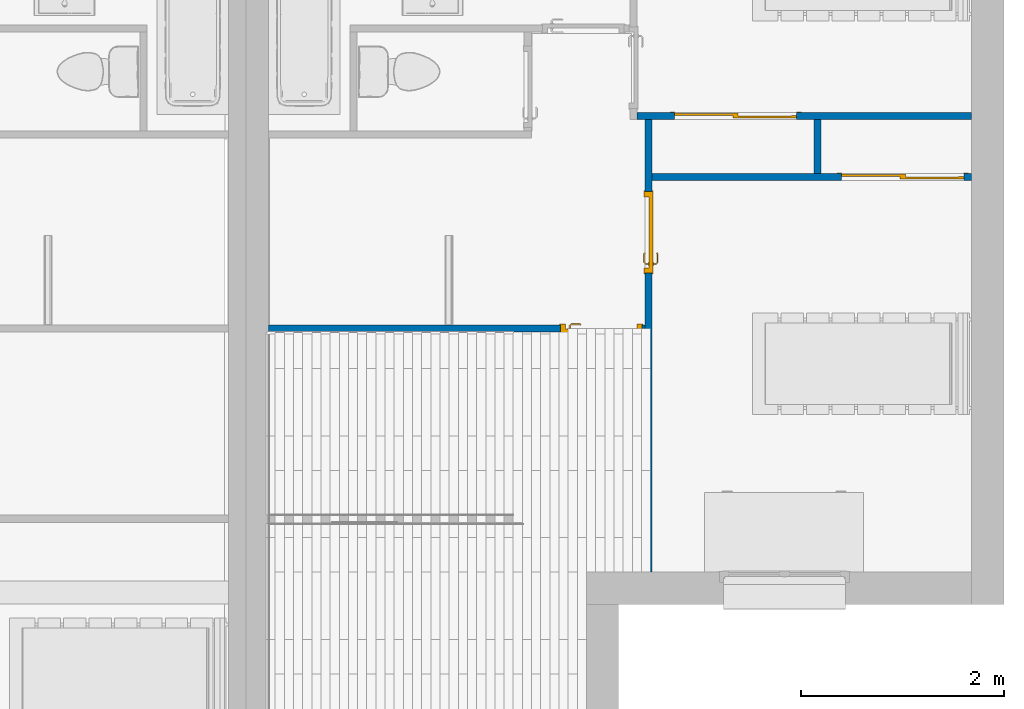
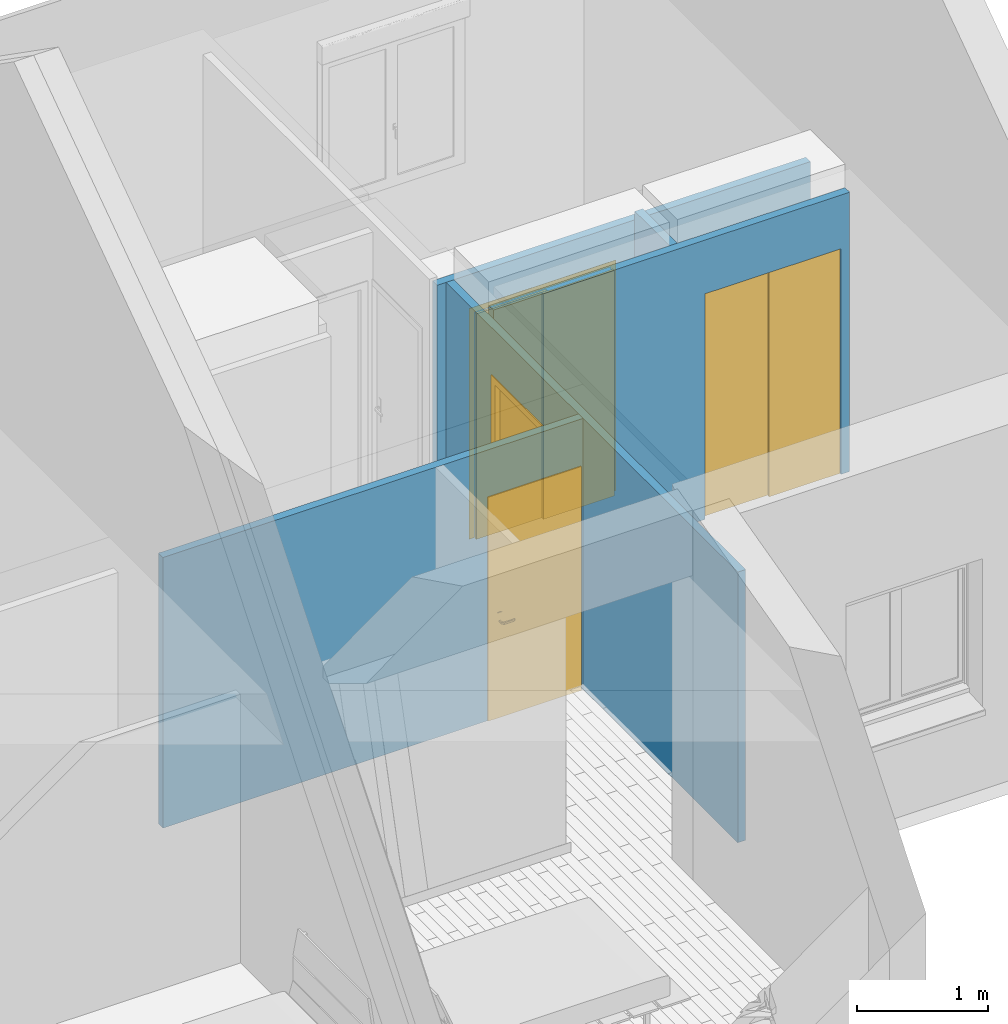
# One storey, part 36 of 50: 5 walls, 4 doors, 4 openings.
"""IFC2X3 building model written with IfcOpenShell, lengths in metres."""

from ifc_helpers import new_model, entity, si_unit, converted_unit, derived_unit, direction, frame, frame_2d, origin, origin_2d_with_axis, place, context, subcontext, project, spatial, polyline, circle_curve, parameter, trimmed, segment, composite_curve, rectangle, outline, extrude, faceted_brep, source, transform, mapped, material, material_list, layer, layer_set, layer_usage, type_object, type_shapes, element, fill, save


model = new_model("IFC2X3")

# Units and contexts
model_context = context("Model", 3, precision=1e-05, world=origin(), true_north=direction((6.12303176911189e-17, 1.0)))
context_of_model = context(None, 3, precision=1e-05, world=origin(), true_north=direction((6.12303176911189e-17, 1.0)))
body_context = subcontext(model_context, "Body", "Model", "MODEL_VIEW")
ifc_project = project(units=[si_unit("LENGTHUNIT", "METRE"), si_unit("AREAUNIT", "SQUARE_METRE"), si_unit("VOLUMEUNIT", "CUBIC_METRE"), converted_unit("PLANEANGLEUNIT", "DEGREE", entity("IfcRatioMeasure", 0.0174532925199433), si_unit("PLANEANGLEUNIT", "RADIAN"), dimensions=[0, 0, 0, 0, 0, 0, 0]), si_unit("MASSUNIT", "GRAM", prefix="KILO"), si_unit("TIMEUNIT", "SECOND"), si_unit("FREQUENCYUNIT", "HERTZ"), si_unit("THERMODYNAMICTEMPERATUREUNIT", "DEGREE_CELSIUS"), derived_unit("THERMALTRANSMITTANCEUNIT", [(si_unit("MASSUNIT", "GRAM", prefix="KILO"), 1), (si_unit("THERMODYNAMICTEMPERATUREUNIT", "KELVIN"), -1), (si_unit("TIMEUNIT", "SECOND"), -3)]), derived_unit("VOLUMETRICFLOWRATEUNIT", [(si_unit("LENGTHUNIT", "METRE"), 3), (si_unit("TIMEUNIT", "SECOND"), -1)]), si_unit("ELECTRICCURRENTUNIT", "AMPERE"), si_unit("ELECTRICVOLTAGEUNIT", "VOLT"), si_unit("POWERUNIT", "WATT"), si_unit("FORCEUNIT", "NEWTON", prefix="KILO"), si_unit("ILLUMINANCEUNIT", "LUX"), si_unit("LUMINOUSFLUXUNIT", "LUMEN"), si_unit("LUMINOUSINTENSITYUNIT", "CANDELA"), si_unit("PRESSUREUNIT", "PASCAL")], contexts=[model_context, context_of_model])

# Site, building, storey
site_placement = place(None, origin())
site = spatial("IfcSite", under=ifc_project, at=site_placement, Name="Surface", CompositionType="ELEMENT")
building_placement = place(site_placement, origin())
building = spatial("IfcBuilding", under=site, at=building_placement, CompositionType="ELEMENT")
storey_placement = place(building_placement, frame((0.0, 0.0, 2.82)))
storey = spatial("IfcBuildingStorey", under=building, at=storey_placement, Name="ETAGE", CompositionType="ELEMENT", Elevation=2.82)

# Wall, opening, door
ifc_material_1 = material(Name="Peinture - Blanc")
ifc_layer = layer(ifc_material_1, 0.07)
ifc_layer_set = layer_set([ifc_layer], Name="Mur de base:Int.  Platre 70 mm en blanc")
ifc_layer_usage_1 = layer_usage(ifc_layer_set, "AXIS2", "NEGATIVE", 0.035)
wall_type = type_object("IfcWallType", Name="Mur de base:Int.  Platre 70 mm en blanc", PredefinedType="STANDARD", material=ifc_layer_set)
wall_1_placement = place(storey_placement, frame((87.6617857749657, 84.2475239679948, 0.0), z_axis=(0.0, 0.0, 1.0), x_axis=(0.0, 1.0, 0.0)))
wall_1 = element("IfcWallStandardCase", 1, at=wall_1_placement, inside=storey, type_object=wall_type, material=ifc_layer_usage_1, Name="Mur de base:Int.  Platre 70 mm en blanc", ObjectType="Mur de base:Int.  Platre 70 mm en blanc", context=body_context, shape_type="SweptSolid", body=[
    extrude(rectangle(XDim=4.44999999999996, YDim=0.0699999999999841, at=frame_2d((2.22499999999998, 0.0), x_axis=(-1.0, 0.0))), origin(), (0.0, 0.0, 1.0), 2.52),
])
opening_1_placement = place(wall_1_placement, frame((3.74, 0.035, 0.0)))
opening_1 = element("IfcOpeningElement", 2, at=opening_1_placement, cuts=wall_1, Name="FR_Simple (R):73 x 204 - (70):1", ObjectType="Opening", context=body_context, shape_type="SweptSolid", body=[
    extrude(rectangle(XDim=2.075, YDim=0.799999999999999, at=frame_2d((1.0375, 0.400000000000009), x_axis=(1.0, 0.0))), frame((0.0, 0.0, 0.0), z_axis=(0.0, -1.0, 0.0), x_axis=(0.0, 0.0, 1.0)), (0.0, 0.0, 1.0), 0.07),
])
ifc_material_2 = material(Name="Poignée Porte")
ifc_material_3 = material(Name="Dormants Portes")
ifc_material_4 = material(Name="Panneaux Portes")
ifc_material_list_1 = material_list([ifc_material_2, ifc_material_3, ifc_material_4])
ifc_material_list_2 = material_list([ifc_material_2, ifc_material_3, ifc_material_4])
door_style_1 = type_object("IfcDoorStyle", Name="73 x 204 - (70)", ConstructionType="NOTDEFINED", OperationType="SINGLE_SWING_LEFT", ParameterTakesPrecedence=False, Sizeable=False, material=ifc_material_list_2)
shared_shape_1 = source(origin(), body_context, "Body", "Brep", [
    faceted_brep([(0.100352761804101, -0.0130000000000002, 0.766003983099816), (0.11, -0.0130000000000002, 0.770000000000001), (0.11, -0.0130000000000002, 0.980000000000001), (0.100352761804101, -0.0130000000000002, 0.983996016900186), (0.0900000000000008, -0.0130000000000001, 0.985358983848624), (0.0796472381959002, -0.0130000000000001, 0.983996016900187), (0.0700000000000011, -0.0130000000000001, 0.980000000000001), (0.0700000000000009, -0.0130000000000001, 0.770000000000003), (0.0796472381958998, -0.0130000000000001, 0.766003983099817), (0.0900000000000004, -0.0130000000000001, 0.764641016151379), (0.100352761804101, -0.00800000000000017, 0.983996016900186), (0.11, -0.00800000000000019, 0.980000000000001), (0.11, -0.00800000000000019, 0.770000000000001), (0.100352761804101, -0.00800000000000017, 0.766003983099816), (0.0900000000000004, -0.00800000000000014, 0.764641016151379), (0.0796472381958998, -0.0080000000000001, 0.766003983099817), (0.0700000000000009, -0.00800000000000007, 0.770000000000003), (0.0700000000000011, -0.00800000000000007, 0.980000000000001), (0.0796472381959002, -0.0080000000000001, 0.983996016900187), (0.0900000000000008, -0.00800000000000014, 0.985358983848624)], [[[0, 1, 2, 3, 4, 5, 6, 7, 8, 9]], [[10, 11, 12, 13, 14, 15, 16, 17, 18, 19]], [[16, 15, 8, 7]], [[8, 15, 14, 9]], [[14, 13, 0, 9]], [[13, 12, 1, 0]], [[2, 1, 12, 11]], [[11, 10, 3, 2]], [[3, 10, 19, 4]], [[19, 18, 5, 4]], [[18, 17, 6, 5]], [[7, 6, 17, 16]]]),
    faceted_brep([(0.100352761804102, 0.0319999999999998, 0.766003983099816), (0.110000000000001, 0.0319999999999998, 0.770000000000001), (0.11, 0.0319999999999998, 0.980000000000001), (0.100352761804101, 0.0319999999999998, 0.983996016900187), (0.0900000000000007, 0.0319999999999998, 0.985358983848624), (0.0796472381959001, 0.0319999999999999, 0.983996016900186), (0.0700000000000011, 0.0319999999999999, 0.980000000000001), (0.0700000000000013, 0.0319999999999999, 0.770000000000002), (0.0796472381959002, 0.0319999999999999, 0.766003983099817), (0.0900000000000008, 0.0319999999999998, 0.764641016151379), (0.100352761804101, 0.0369999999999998, 0.983996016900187), (0.11, 0.0369999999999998, 0.980000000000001), (0.110000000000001, 0.0369999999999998, 0.770000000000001), (0.100352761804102, 0.0369999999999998, 0.766003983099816), (0.0900000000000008, 0.0369999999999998, 0.764641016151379), (0.0796472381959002, 0.0369999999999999, 0.766003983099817), (0.0700000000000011, 0.0369999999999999, 0.770000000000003), (0.0700000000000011, 0.0369999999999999, 0.980000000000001), (0.0796472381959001, 0.0369999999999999, 0.983996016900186), (0.0900000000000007, 0.0369999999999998, 0.985358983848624)], [[[0, 1, 2, 3, 4, 5, 6, 7, 8, 9]], [[10, 11, 12, 13, 14, 15, 16, 17, 18, 19]], [[11, 10, 3, 2]], [[3, 10, 19, 4]], [[19, 18, 5, 4]], [[18, 17, 6, 5]], [[7, 6, 17, 16]], [[16, 15, 8, 7]], [[8, 15, 14, 9]], [[14, 13, 0, 9]], [[13, 12, 1, 0]], [[2, 1, 12, 11]]]),
    faceted_brep([(0.0879747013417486, -0.0130000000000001, 0.907780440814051), (0.0920252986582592, -0.0130000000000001, 0.907780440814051), (0.0960000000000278, -0.0130000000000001, 0.906999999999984), (0.0960000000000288, -0.0130000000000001, 0.893000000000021), (0.0920252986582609, -0.0130000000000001, 0.89221955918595), (0.0879747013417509, -0.0130000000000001, 0.892219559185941), (0.0839999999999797, -0.0130000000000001, 0.892999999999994), (0.0839999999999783, -0.0130000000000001, 0.90699999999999), (0.083999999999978, -0.0406509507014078, 0.906999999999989), (0.0879747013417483, -0.0390045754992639, 0.907780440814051), (0.104023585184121, -0.0550534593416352, 0.907780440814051), (0.105701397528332, -0.0510028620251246, 0.907780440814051), (0.0920252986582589, -0.0373267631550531, 0.907780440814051), (0.198521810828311, -0.0473891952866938, 0.90778044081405), (0.195657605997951, -0.0445249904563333, 0.90778044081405), (0.18917973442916, -0.0510028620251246, 0.90778044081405), (0.190857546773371, -0.0550534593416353, 0.90778044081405), (0.0960000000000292, -0.0356803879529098, 0.90699999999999), (0.0960000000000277, -0.0356803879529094, 0.893000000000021), (0.0920252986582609, -0.0373267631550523, 0.89221955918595), (0.105701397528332, -0.0510028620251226, 0.89221955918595), (0.104023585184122, -0.0550534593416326, 0.89221955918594), (0.0879747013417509, -0.0390045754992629, 0.89221955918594), (0.195657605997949, -0.044524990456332, 0.89221955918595), (0.19852181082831, -0.0473891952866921, 0.89221955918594), (0.19085754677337, -0.0550534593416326, 0.89221955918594), (0.18917973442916, -0.0510028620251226, 0.89221955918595), (0.0839999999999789, -0.0406509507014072, 0.892999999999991), (0.102377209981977, -0.0590281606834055, 0.906999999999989), (0.107347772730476, -0.0470281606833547, 0.90699999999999), (0.107347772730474, -0.0470281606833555, 0.893000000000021), (0.102377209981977, -0.0590281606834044, 0.892999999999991), (0.142307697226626, -0.0590281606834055, 0.906999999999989), (0.147440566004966, -0.053182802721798, 0.907878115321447), (0.192503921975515, -0.0590281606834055, 0.906999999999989), (0.147440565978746, -0.0470281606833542, 0.90699999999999), (0.187533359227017, -0.0470281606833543, 0.906999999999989), (0.187533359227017, -0.0470281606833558, 0.89300000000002), (0.147440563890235, -0.0470281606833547, 0.893000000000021), (0.147440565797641, -0.0531828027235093, 0.892121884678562), (0.192503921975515, -0.0590281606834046, 0.892999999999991), (0.152573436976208, -0.0590281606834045, 0.892999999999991), (0.192847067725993, -0.0417144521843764, 0.906999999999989), (0.201332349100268, -0.0501997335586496, 0.906999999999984), (0.201332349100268, -0.05019973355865, 0.892999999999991), (0.192847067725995, -0.0417144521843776, 0.893000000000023)], [[[0, 1, 2, 3, 4, 5, 6, 7]], [[8, 9, 0, 7]], [[9, 10, 11, 12, 1, 0]], [[13, 14, 15, 16]], [[12, 17, 2, 1]], [[3, 2, 17, 18]], [[18, 19, 4, 3]], [[19, 20, 21, 22, 5, 4]], [[23, 24, 25, 26]], [[22, 27, 6, 5]], [[7, 6, 27, 8]], [[28, 10, 9, 8]], [[11, 29, 17, 12]], [[18, 17, 29, 30]], [[30, 20, 19, 18]], [[21, 31, 27, 22]], [[8, 27, 31, 28]], [[32, 33, 10]], [[33, 32, 16]], [[10, 28, 32]], [[34, 16, 32]], [[33, 35, 11]], [[11, 10, 33]], [[15, 35, 33]], [[29, 11, 35]], [[35, 15, 36]], [[15, 33, 16]], [[30, 29, 35, 36, 37, 38]], [[20, 38, 39]], [[25, 40, 41]], [[31, 21, 41]], [[41, 21, 39]], [[39, 38, 26]], [[26, 25, 39]], [[38, 20, 30]], [[37, 26, 38]], [[20, 39, 21]], [[41, 39, 25]], [[28, 31, 41, 40, 34, 32]], [[42, 14, 13, 43, 44, 24, 23, 45]], [[43, 13, 16, 34]], [[14, 42, 36, 15]], [[37, 36, 42, 45]], [[45, 23, 26, 37]], [[24, 44, 40, 25]], [[34, 40, 44, 43]]]),
    faceted_brep([(0.0879747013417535, 0.0369999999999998, 0.892219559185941), (0.092025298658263, 0.0369999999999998, 0.892219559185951), (0.0960000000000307, 0.0369999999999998, 0.893000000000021), (0.096000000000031, 0.0369999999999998, 0.90699999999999), (0.0920252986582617, 0.0369999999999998, 0.907780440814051), (0.0879747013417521, 0.0369999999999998, 0.907780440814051), (0.0839999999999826, 0.0369999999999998, 0.90699999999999), (0.0839999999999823, 0.0369999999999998, 0.892999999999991), (0.0960000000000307, 0.0594852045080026, 0.893000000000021), (0.0960000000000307, 0.0594852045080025, 0.90699999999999), (0.092025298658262, 0.0611315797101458, 0.907780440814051), (0.105838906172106, 0.0749451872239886, 0.907780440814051), (0.104161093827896, 0.0789957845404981, 0.907780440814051), (0.0879747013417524, 0.0628093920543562, 0.907780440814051), (0.195684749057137, 0.0684673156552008, 0.907780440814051), (0.198548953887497, 0.071331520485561, 0.907780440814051), (0.190884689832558, 0.0789957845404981, 0.907780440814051), (0.189206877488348, 0.0749451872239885, 0.907780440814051), (0.0839999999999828, 0.0644557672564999, 0.90699999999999), (0.0839999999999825, 0.0644557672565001, 0.892999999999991), (0.0879747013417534, 0.0628093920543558, 0.892219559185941), (0.104161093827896, 0.0789957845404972, 0.892219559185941), (0.105838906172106, 0.0749451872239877, 0.892219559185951), (0.0920252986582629, 0.0611315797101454, 0.892219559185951), (0.198548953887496, 0.07133152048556, 0.89221955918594), (0.195684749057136, 0.0684673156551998, 0.89221955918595), (0.189206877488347, 0.0749451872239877, 0.89221955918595), (0.190884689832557, 0.0789957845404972, 0.89221955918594), (0.107485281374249, 0.0709704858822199, 0.893000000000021), (0.107485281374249, 0.0709704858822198, 0.90699999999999), (0.102514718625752, 0.0829704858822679, 0.90699999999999), (0.102514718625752, 0.0829704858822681, 0.892999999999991), (0.147522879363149, 0.0709704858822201, 0.89300000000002), (0.187560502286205, 0.0709704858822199, 0.89300000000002), (0.187560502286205, 0.0709704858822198, 0.90699999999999), (0.147522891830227, 0.0709704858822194, 0.90699999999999), (0.147522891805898, 0.0771249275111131, 0.907878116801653), (0.192531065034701, 0.0829704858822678, 0.90699999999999), (0.152600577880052, 0.0829704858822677, 0.90699999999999), (0.192531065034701, 0.082970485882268, 0.892999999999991), (0.142445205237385, 0.0829704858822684, 0.892999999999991), (0.147522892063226, 0.0771249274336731, 0.892121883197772), (0.192874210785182, 0.0656567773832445, 0.89300000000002), (0.201359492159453, 0.0741420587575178, 0.892999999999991), (0.201359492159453, 0.0741420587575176, 0.90699999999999), (0.192874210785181, 0.0656567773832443, 0.90699999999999)], [[[0, 1, 2, 3, 4, 5, 6, 7]], [[3, 2, 8, 9]], [[9, 10, 4, 3]], [[10, 11, 12, 13, 5, 4]], [[14, 15, 16, 17]], [[13, 18, 6, 5]], [[7, 6, 18, 19]], [[19, 20, 0, 7]], [[20, 21, 22, 23, 1, 0]], [[24, 25, 26, 27]], [[23, 8, 2, 1]], [[9, 8, 28, 29]], [[29, 11, 10, 9]], [[12, 30, 18, 13]], [[19, 18, 30, 31]], [[31, 21, 20, 19]], [[22, 28, 8, 23]], [[28, 32, 33, 34, 35, 29]], [[11, 35, 36]], [[16, 37, 38]], [[30, 12, 38]], [[38, 12, 36]], [[36, 35, 17]], [[17, 16, 36]], [[35, 11, 29]], [[34, 17, 35]], [[11, 36, 12]], [[38, 36, 16]], [[31, 30, 38, 37, 39, 40]], [[40, 41, 21]], [[41, 40, 27]], [[21, 31, 40]], [[39, 27, 40]], [[41, 32, 22]], [[22, 21, 41]], [[26, 32, 41]], [[28, 22, 32]], [[32, 26, 33]], [[26, 41, 27]], [[42, 25, 24, 43, 44, 15, 14, 45]], [[34, 33, 42, 45]], [[45, 14, 17, 34]], [[15, 44, 37, 16]], [[39, 37, 44, 43]], [[43, 24, 27, 39]], [[25, 42, 33, 26]]]),
    faceted_brep([(0.0, 0.0, 0.0), (0.0, 0.0700000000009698, 0.0), (-0.00999999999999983, 0.0700000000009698, 0.0), (-0.00999999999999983, 0.0780000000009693, 0.0), (0.0499999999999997, 0.0780000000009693, 0.0), (0.0499999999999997, 0.032, 0.0), (0.0350000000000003, 0.032, 0.0), (0.0350000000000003, -0.00799999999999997, 0.0), (-0.00999999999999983, -0.00799999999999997, 0.0), (-0.00999999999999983, 0.0, 0.0), (0.0, 0.0, 2.075), (0.0, 0.0700000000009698, 2.075), (0.799999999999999, 0.0700000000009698, 2.075), (0.799999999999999, 0.0700000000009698, 0.0), (0.809999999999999, 0.0700000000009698, 0.0), (0.809999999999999, 0.0700000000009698, 2.085), (-0.00999999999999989, 0.0700000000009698, 2.085), (-0.00999999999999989, 0.0780000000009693, 2.085), (0.809999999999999, 0.0780000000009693, 2.085), (0.809999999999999, 0.0780000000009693, 0.0), (0.75, 0.0780000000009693, 0.0), (0.75, 0.0780000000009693, 2.025), (0.0499999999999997, 0.0780000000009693, 2.025), (0.0499999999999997, 0.032, 2.025), (0.75, 0.032, 2.025), (0.75, 0.032, 0.0), (0.764999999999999, 0.032, 0.0), (0.764999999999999, 0.032, 2.04), (0.0350000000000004, 0.032, 2.04), (0.0350000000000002, -0.00799999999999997, 2.04), (0.764999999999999, -0.00799999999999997, 2.04), (0.764999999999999, -0.00799999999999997, 0.0), (0.809999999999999, -0.00799999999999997, 0.0), (0.809999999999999, -0.00799999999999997, 2.085), (-0.00999999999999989, -0.00799999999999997, 2.085), (-0.00999999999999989, 0.0, 2.085), (0.809999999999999, 0.0, 2.085), (0.809999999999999, 0.0, 0.0), (0.799999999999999, 0.0, 0.0), (0.799999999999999, 0.0, 2.075)], [[[0, 1, 2, 3, 4, 5, 6, 7, 8, 9]], [[1, 0, 10, 11]], [[2, 1, 11, 12, 13, 14, 15, 16]], [[3, 2, 16, 17]], [[4, 3, 17, 18, 19, 20, 21, 22]], [[5, 4, 22, 23]], [[6, 5, 23, 24, 25, 26, 27, 28]], [[7, 6, 28, 29]], [[8, 7, 29, 30, 31, 32, 33, 34]], [[9, 8, 34, 35]], [[0, 9, 35, 36, 37, 38, 39, 10]], [[11, 10, 39, 12]], [[17, 16, 15, 18]], [[23, 22, 21, 24]], [[29, 28, 27, 30]], [[35, 34, 33, 36]], [[38, 37, 32, 31, 26, 25, 20, 19, 14, 13]], [[12, 39, 38, 13]], [[18, 15, 14, 19]], [[24, 21, 20, 25]], [[30, 27, 26, 31]], [[36, 33, 32, 37]]]),
    faceted_brep([(0.0350000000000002, -0.00799999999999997, 2.04), (0.0350000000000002, -0.00799999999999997, 0.0), (0.764999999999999, -0.00799999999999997, 0.0), (0.764999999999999, -0.00799999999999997, 2.04), (0.0350000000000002, 0.032, 2.04), (0.764999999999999, 0.032, 2.04), (0.764999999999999, 0.032, 0.0), (0.0350000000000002, 0.032, 0.0)], [[[0, 1, 2, 3]], [[4, 5, 6, 7]], [[1, 0, 4, 7]], [[2, 1, 7, 6]], [[3, 2, 6, 5]], [[0, 3, 5, 4]]]),
])
type_shapes(door_style_1, [shared_shape_1])
door_1_placement = place(opening_1_placement, frame((-0.799999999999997, -0.069999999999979, 0.0)))
door_1 = element("IfcDoor", 3, at=door_1_placement, inside=storey, type_object=door_style_1, material=ifc_material_list_1, Name="FR_Simple (R):73 x 204 - (70)", ObjectType="73 x 204 - (70)", OverallHeight=2.075, OverallWidth=0.800000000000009, context=body_context, shape_type="MappedRepresentation", body=[
    mapped(shared_shape_1, transform((0.0, 0.0, 0.0), scale=1.0)),
])
fill(opening_1, door_1)

ifc_layer_usage_2 = layer_usage(ifc_layer_set, "AXIS2", "NEGATIVE", 0.035)
wall_2_placement = place(storey_placement, frame((87.6267857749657, 86.6425239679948, 0.0), z_axis=(0.0, 0.0, 1.0), x_axis=(-1.0, 0.0, 0.0)))
wall_2 = element("IfcWallStandardCase", 4, at=wall_2_placement, inside=storey, type_object=wall_type, material=ifc_layer_usage_2, Name="Mur de base:Int.  Platre 70 mm en blanc", ObjectType="Mur de base:Int.  Platre 70 mm en blanc", context=body_context, shape_type="SweptSolid", body=[
    extrude(rectangle(XDim=3.70038340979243, YDim=0.0699999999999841, at=frame_2d((1.85019170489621, 0.0), x_axis=(-1.0, 0.0))), origin(), (0.0, 0.0, 1.0), 2.52),
])
opening_2_placement = place(wall_2_placement, frame((0.0299999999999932, -0.035, 0.0)))
opening_2 = element("IfcOpeningElement", 5, at=opening_2_placement, cuts=wall_2, Name="FR_Simple (R):73 x 204 - (70):1", ObjectType="Opening", context=body_context, shape_type="SweptSolid", body=[
    extrude(rectangle(XDim=2.075, YDim=0.799999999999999, at=frame_2d((1.0375, 0.400000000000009), x_axis=(1.0, 0.0))), frame((0.0, 0.0, 0.0), z_axis=(0.0, 1.0, 0.0), x_axis=(0.0, 0.0, 1.0)), (0.0, 0.0, 1.0), 0.07),
])
ifc_material_list_3 = material_list([ifc_material_2, ifc_material_3, ifc_material_4])
door_2_placement = place(opening_2_placement, frame((0.800000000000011, 0.0699999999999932, 0.0), z_axis=(0.0, 0.0, 1.0), x_axis=(-1.0, 0.0, 0.0)))
door_2 = element("IfcDoor", 6, at=door_2_placement, inside=storey, type_object=door_style_1, material=ifc_material_list_3, Name="FR_Simple (R):73 x 204 - (70)", ObjectType="73 x 204 - (70)", OverallHeight=2.075, OverallWidth=0.800000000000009, context=body_context, shape_type="MappedRepresentation", body=[
    mapped(shared_shape_1, transform((0.0, 0.0, 0.0), scale=1.0)),
])
fill(opening_2, door_2)

ifc_layer_usage_3 = layer_usage(ifc_layer_set, "AXIS2", "NEGATIVE", 0.035)
wall_3_placement = place(storey_placement, frame((87.5489023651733, 88.7325239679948, 0.0)))
wall_3 = element("IfcWallStandardCase", 7, at=wall_3_placement, inside=storey, type_object=wall_type, material=ifc_layer_usage_3, Name="Mur de base:Int.  Platre 70 mm en blanc", ObjectType="Mur de base:Int.  Platre 70 mm en blanc", context=body_context, shape_type="SweptSolid", body=[
    extrude(rectangle(XDim=3.28614635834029, YDim=0.0699999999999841, at=frame_2d((1.64307317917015, 2.15105711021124e-16), x_axis=(-1.0, 0.0))), origin(), (0.0, 0.0, 1.0), 2.52),
])
opening_3_placement = place(wall_3_placement, frame((0.368699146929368, -0.0350000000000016, 0.0)))
opening_3 = element("IfcOpeningElement", 8, at=opening_3_placement, cuts=wall_3, Name="Placard coulissante - 2 panneaux:Placard coulissante - 2 panneaux:1", ObjectType="Opening", context=body_context, shape_type="SweptSolid", body=[
    extrude(rectangle(XDim=2.09999999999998, YDim=1.2, at=frame_2d((1.04999999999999, 0.6), x_axis=(1.0, 0.0))), frame((0.0, 0.0, 0.0), z_axis=(0.0, 1.0, 0.0), x_axis=(0.0, 0.0, 1.0)), (0.0, 0.0, 1.0), 0.07),
])
ifc_material_5 = material(Name="Placard - Profil")
ifc_material_6 = material(Name="Placard - Encadrement")
ifc_material_7 = material(Name="Placard - Porte")
ifc_material_list_4 = material_list([ifc_material_5, ifc_material_6, ifc_material_7])
ifc_material_list_5 = material_list([ifc_material_5, ifc_material_6, ifc_material_7])
door_style_2 = type_object("IfcDoorStyle", Name="Placard coulissante - 2 panneaux", ConstructionType="NOTDEFINED", OperationType="SLIDING_TO_RIGHT", ParameterTakesPrecedence=False, Sizeable=False, material=ifc_material_list_5)
shared_shape_2 = source(origin(), body_context, "Body", "SweptSolid", [
    extrude(outline(composite_curve([segment(polyline([(-0.0250000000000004, -0.00100000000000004), (0.0249999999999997, -0.00100000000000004)]), True, "CONTINUOUS"), segment(polyline([(0.0249999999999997, -0.00100000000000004), (0.0249999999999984, 0.00100000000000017)]), True, "CONTINUOUS"), segment(trimmed(circle_curve(frame_2d((0.0, -0.212860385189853), x_axis=(-1.0, 0.0)), 0.215316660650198), [parameter(263.332459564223)], [parameter(276.667540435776)], True, "PARAMETER"), True, "CONTINUOUS"), segment(polyline([(-0.0250000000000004, 0.00100000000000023), (-0.0250000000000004, -0.00100000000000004)]), True, "CONTINUOUS")], self_intersect=False)), frame((1.175, 0.00900000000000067, 0.0), z_axis=(0.0, 0.0, 1.0), x_axis=(-1.0, 0.0, 0.0)), (0.0, 0.0, 1.0), 2.1),
    extrude(outline(composite_curve([segment(polyline([(-0.0250000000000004, -0.00100000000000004), (0.0249999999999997, -0.00100000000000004)]), True, "CONTINUOUS"), segment(polyline([(0.0249999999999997, -0.00100000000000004), (0.0249999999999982, 0.00100000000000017)]), True, "CONTINUOUS"), segment(trimmed(circle_curve(frame_2d((0.0, -0.212860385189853), x_axis=(-1.0, 0.0)), 0.215316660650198), [parameter(263.332459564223)], [parameter(276.667540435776)], True, "PARAMETER"), True, "CONTINUOUS"), segment(polyline([(-0.0250000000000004, 0.00100000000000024), (-0.0250000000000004, -0.00100000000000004)]), True, "CONTINUOUS")], self_intersect=False)), frame((0.599999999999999, 0.00900000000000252, 0.0), z_axis=(0.0, 0.0, 1.0), x_axis=(-1.0, 0.0, 0.0)), (0.0, 0.0, 1.0), 2.1),
    extrude(outline(composite_curve([segment(polyline([(-0.0250000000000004, -0.00100000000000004), (0.0249999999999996, -0.00100000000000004)]), True, "CONTINUOUS"), segment(polyline([(0.0249999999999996, -0.00100000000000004), (0.0249999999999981, 0.00100000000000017)]), True, "CONTINUOUS"), segment(trimmed(circle_curve(frame_2d((0.0, -0.212860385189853), x_axis=(-1.0, 0.0)), 0.215316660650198), [parameter(263.332459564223)], [parameter(276.667540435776)], True, "PARAMETER"), True, "CONTINUOUS"), segment(polyline([(-0.0250000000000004, 0.00100000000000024), (-0.0250000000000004, -0.00100000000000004)]), True, "CONTINUOUS")], self_intersect=False)), frame((0.599999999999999, 0.0340000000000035, 0.0), z_axis=(0.0, 0.0, 1.0), x_axis=(-1.0, 0.0, 0.0)), (0.0, 0.0, 1.0), 2.1),
    extrude(outline(composite_curve([segment(polyline([(-0.0250000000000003, -0.00100000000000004), (0.0249999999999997, -0.00100000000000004)]), True, "CONTINUOUS"), segment(polyline([(0.0249999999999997, -0.00100000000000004), (0.0249999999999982, 0.00100000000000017)]), True, "CONTINUOUS"), segment(trimmed(circle_curve(frame_2d((0.0, -0.212860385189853), x_axis=(-1.0, 0.0)), 0.215316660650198), [parameter(263.332459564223)], [parameter(276.667540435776)], True, "PARAMETER"), True, "CONTINUOUS"), segment(polyline([(-0.0250000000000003, 0.00100000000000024), (-0.0250000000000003, -0.00100000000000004)]), True, "CONTINUOUS")], self_intersect=False)), frame((0.0250000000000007, 0.0340000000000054, 0.0), z_axis=(0.0, 0.0, 1.0), x_axis=(-1.0, 0.0, 0.0)), (0.0, 0.0, 1.0), 2.1),
    extrude(outline(polyline([(-1.06149999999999, -0.647999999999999), (1.08649999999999, -0.647999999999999), (1.08649999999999, 0.647999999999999), (-1.06149999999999, 0.647999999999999), (-1.06149999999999, 0.597999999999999), (1.03649999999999, 0.597999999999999), (1.03649999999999, -0.597999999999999), (-1.06149999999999, -0.597999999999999), (-1.06149999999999, -0.647999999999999)])), frame((0.6, -0.003, 1.06149999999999), z_axis=(0.0, 1.0, 0.0), x_axis=(0.0, 0.0, 1.0)), (0.0, 0.0, 1.0), 0.003),
    extrude(rectangle(XDim=0.020000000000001, YDim=0.625000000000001, at=origin_2d_with_axis()), frame((0.8875, 0.0200000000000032, 0.0), z_axis=(0.0, 0.0, 1.0), x_axis=(0.0, 1.0, 0.0)), (0.0, 0.0, 1.0), 2.1),
    extrude(rectangle(XDim=0.02, YDim=0.624999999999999, at=origin_2d_with_axis()), frame((0.3125, 0.0450000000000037, 0.0), z_axis=(0.0, 0.0, 1.0), x_axis=(0.0, 1.0, 0.0)), (0.0, 0.0, 1.0), 2.1),
])
type_shapes(door_style_2, [shared_shape_2])
door_3_placement = place(opening_3_placement, frame((1.19999999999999, 0.0699999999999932, 0.0), z_axis=(0.0, 0.0, 1.0), x_axis=(-1.0, 0.0, 0.0)))
door_3 = element("IfcDoor", 9, at=door_3_placement, inside=storey, type_object=door_style_2, material=ifc_material_list_4, Name="Placard coulissante - 2 panneaux:Placard coulissante - 2 panneaux", ObjectType="Placard coulissante - 2 panneaux", OverallHeight=2.09999999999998, OverallWidth=1.2, context=body_context, shape_type="MappedRepresentation", body=[
    mapped(shared_shape_2, transform((0.0, 0.0, 0.0), scale=1.0)),
])
fill(opening_3, door_3)

ifc_layer_usage_4 = layer_usage(ifc_layer_set, "AXIS2", "NEGATIVE", 0.035)
wall_4_placement = place(storey_placement, frame((87.6967857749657, 88.1325239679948, 0.0)))
wall_4 = element("IfcWallStandardCase", 10, at=wall_4_placement, inside=storey, type_object=wall_type, material=ifc_layer_usage_4, Name="Mur de base:Int.  Platre 70 mm en blanc", ObjectType="Mur de base:Int.  Platre 70 mm en blanc", context=body_context, shape_type="SweptSolid", body=[
    extrude(rectangle(XDim=3.13826294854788, YDim=0.0699999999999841, at=frame_2d((1.56913147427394, -8.53483950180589e-16), x_axis=(-1.0, 0.0))), origin(), (0.0, 0.0, 1.0), 2.6),
])
opening_4_placement = place(wall_4_placement, frame((1.8632629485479, -0.0350000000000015, 0.0)))
opening_4 = element("IfcOpeningElement", 11, at=opening_4_placement, cuts=wall_4, Name="Placard coulissante - 2 panneaux:Placard coulissante - 2 panneaux:1", ObjectType="Opening", context=body_context, shape_type="SweptSolid", body=[
    extrude(rectangle(XDim=2.09999999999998, YDim=1.2, at=frame_2d((1.04999999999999, 0.6), x_axis=(1.0, 0.0))), frame((0.0, 0.0, 0.0), z_axis=(0.0, 1.0, 0.0), x_axis=(0.0, 0.0, 1.0)), (0.0, 0.0, 1.0), 0.07),
])
ifc_material_list_6 = material_list([ifc_material_5, ifc_material_6, ifc_material_7])
door_4_placement = place(opening_4_placement, frame((1.19999999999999, 0.069999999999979, 0.0), z_axis=(0.0, 0.0, 1.0), x_axis=(-1.0, 0.0, 0.0)))
door_4 = element("IfcDoor", 12, at=door_4_placement, inside=storey, type_object=door_style_2, material=ifc_material_list_6, Name="Placard coulissante - 2 panneaux:Placard coulissante - 2 panneaux", ObjectType="Placard coulissante - 2 panneaux", OverallHeight=2.09999999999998, OverallWidth=1.2, context=body_context, shape_type="MappedRepresentation", body=[
    mapped(shared_shape_2, transform((0.0, 0.0, 0.0), scale=1.0)),
])
fill(opening_4, door_4)

# Wall
ifc_layer_usage_5 = layer_usage(ifc_layer_set, "AXIS2", "NEGATIVE", 0.035)
wall_5_placement = place(storey_placement, frame((89.3234172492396, 88.1675239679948, 0.0), z_axis=(0.0, 0.0, 1.0), x_axis=(0.0, 1.0, 0.0)))
element("IfcWallStandardCase", 13, at=wall_5_placement, inside=storey, type_object=wall_type, material=ifc_layer_usage_5, Name="Mur de base:Int.  Platre 70 mm en blanc", ObjectType="Mur de base:Int.  Platre 70 mm en blanc", context=body_context, shape_type="SweptSolid", body=[
    extrude(rectangle(XDim=0.529999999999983, YDim=0.0699999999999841, at=frame_2d((0.264999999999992, 0.0), x_axis=(-1.0, 0.0))), origin(), (0.0, 0.0, 1.0), 2.6),
])

save(model, "model.ifc")
